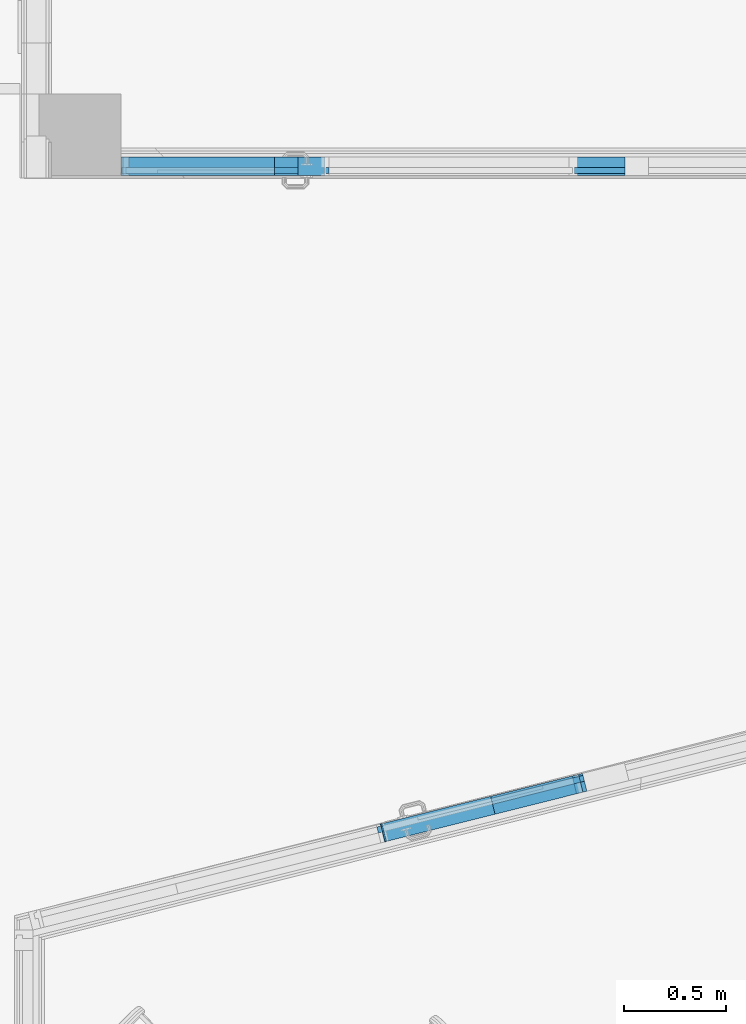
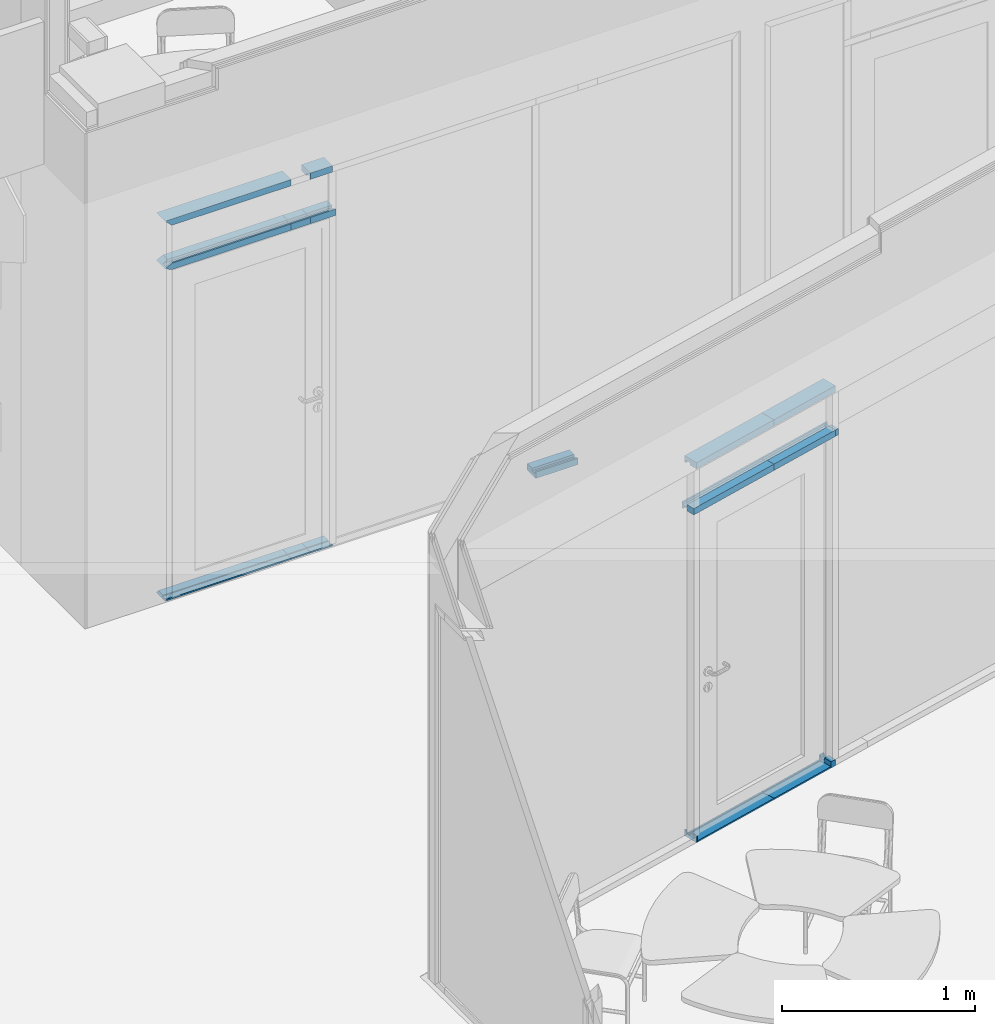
# One storey, part 35 of 153: 18 members, 2 elements without a shape of their own.
"""IFC2X3 building model written with IfcOpenShell, lengths in millimetres."""

from ifc_helpers import new_model, entity, si_unit, converted_unit, derived_unit, money_unit, direction, frame, origin_with_axes, place, context, subcontext, project, spatial, faceted_brep, material, type_object, element, aggregate, save


model = new_model("IFC2X3")

# Units and contexts
model_context = context("Model", 3, precision=0.01, world=origin_with_axes(), true_north=direction((0.0, 1.0)))
body_context = subcontext(model_context, "Body", "Model", "MODEL_VIEW")
ifc_project = project(units=[si_unit("LENGTHUNIT", "METRE", prefix="MILLI"), si_unit("AREAUNIT", "SQUARE_METRE"), si_unit("VOLUMEUNIT", "CUBIC_METRE"), converted_unit("PLANEANGLEUNIT", "DEGREE", entity("IfcPlaneAngleMeasure", 0.0174532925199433), si_unit("PLANEANGLEUNIT", "RADIAN"), dimensions=[0, 0, 0, 0, 0, 0, 0]), money_unit("EUR"), converted_unit("TIMEUNIT", "Year", entity("IfcTimeMeasure", 31557600.0), si_unit("TIMEUNIT", "SECOND"), dimensions=[0, 0, 1, 0, 0, 0, 0]), si_unit("MASSUNIT", "GRAM", prefix="KILO"), si_unit("THERMODYNAMICTEMPERATUREUNIT", "DEGREE_CELSIUS"), si_unit("LUMINOUSINTENSITYUNIT", "LUMEN"), si_unit("ENERGYUNIT", "JOULE", prefix="MEGA"), derived_unit("THERMALCONDUCTANCEUNIT", [(si_unit("POWERUNIT", "WATT"), 1), (si_unit("LENGTHUNIT", "METRE"), -1), (si_unit("THERMODYNAMICTEMPERATUREUNIT", "KELVIN"), -1)]), derived_unit("SPECIFICHEATCAPACITYUNIT", [(si_unit("ENERGYUNIT", "JOULE"), 1), (si_unit("MASSUNIT", "GRAM", prefix="KILO"), -1), (si_unit("THERMODYNAMICTEMPERATUREUNIT", "KELVIN"), -1)]), derived_unit("MASSDENSITYUNIT", [(si_unit("MASSUNIT", "GRAM", prefix="KILO"), 1), (si_unit("VOLUMEUNIT", "CUBIC_METRE"), -1)])], contexts=[model_context])

# Site, building, storey
site_placement = place(None, frame((0.0, 0.0, 8650.0), z_axis=(0.0, 0.0, 1.0), x_axis=(1.0, 0.0, 0.0)))
site = spatial("IfcSite", under=ifc_project, at=site_placement, Name="43301:001:0844", CompositionType="ELEMENT")
building_placement = place(site_placement, origin_with_axes())
building = spatial("IfcBuilding", under=site, at=building_placement, Name="Kuressaare Ametikooli tuulikute mehaanikute õppekorpus", CompositionType="ELEMENT")
storey_placement = place(building_placement, frame((0.0, 0.0, 4100.0), z_axis=(0.0, 0.0, 1.0), x_axis=(1.0, 0.0, 0.0)))
storey = spatial("IfcBuildingStorey", under=building, at=storey_placement, Name="2.korrus", CompositionType="ELEMENT", Elevation=4100.0)

# Curtain wall, members
curtain_wall_type = type_object("IfcCurtainWallType", Name="Curtain Wall Type", PredefinedType="NOTDEFINED")
curtain_wall_1_placement = place(storey_placement, frame((120547.3158940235, 20502.05468019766, 0.0), z_axis=(0.0, 0.0, 1.0), x_axis=(1.0, 0.0, 0.0)))
curtain_wall_1 = element("IfcCurtainWall", 1, at=curtain_wall_1_placement, inside=storey, type_object=curtain_wall_type, Name="PKF-2.2")
ifc_material = material(Name="Aluminium")
member_type_1 = type_object("IfcMemberType", Name="Boundary Frame 40 x 90", PredefinedType="NOTDEFINED")
member_1_placement = place(curtain_wall_1_placement, frame((36.68518250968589, 9.196740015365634, 2100.000036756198), z_axis=(-0.9699839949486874, -0.2431687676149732, -5.017218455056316e-09), x_axis=(-4.866621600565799e-09, -1.220030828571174e-09, 1.0)))
member_1 = element("IfcMember", 2, at=member_1_placement, type_object=member_type_1, material=ifc_material, context=body_context, shape_type="Brep", body=[
    faceted_brep([(-4.999997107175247, -15.00000000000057, 576.5794948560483), (-19.99999710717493, -15.00000000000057, 576.579494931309), (-19.99999710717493, -65.00000000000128, 576.579494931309), (20.00000289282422, -65.00000000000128, 576.5794947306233), (20.00000289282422, -15.00000000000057, 576.5794947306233), (5.00000289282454, -15.00000000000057, 576.5794948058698), (5.00000289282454, 15.00000000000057, 576.5794948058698), (20.00000289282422, 15.00000000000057, 576.5794947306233), (20.00000289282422, 25.00000000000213, 576.5794947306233), (-19.99999710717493, 25.00000000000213, 576.579494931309), (-19.99999710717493, 15.00000000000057, 576.579494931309), (-4.999997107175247, 15.00000000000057, 576.5794948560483), (-4.999999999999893, -15.00000000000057, -1.990514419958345e-07), (-19.99999999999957, -15.00000000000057, -1.237907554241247e-07), (-19.99999999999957, -65.00000000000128, -1.237907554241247e-07), (19.99999999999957, -65.00000000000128, -3.244764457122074e-07), (19.99999999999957, -15.00000000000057, -3.244764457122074e-07), (4.999999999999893, -15.00000000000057, -2.492299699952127e-07), (4.999999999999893, 14.99999999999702, -2.492299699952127e-07), (19.99999999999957, 14.99999999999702, -3.244764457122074e-07), (19.99999999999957, 24.99999999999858, -3.244764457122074e-07), (-19.99999999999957, 24.99999999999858, -1.237907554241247e-07), (-19.99999999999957, 14.99999999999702, -1.237907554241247e-07), (-4.999999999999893, 14.99999999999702, -1.990514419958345e-07)], [[[0, 1, 2, 3, 4, 5, 6, 7, 8, 9, 10, 11]], [[1, 0, 12, 13]], [[1, 13, 14, 2]], [[3, 2, 14, 15]], [[4, 3, 15, 16]], [[4, 16, 17, 5]], [[5, 17, 18, 6]], [[7, 6, 18, 19]], [[19, 20, 8, 7]], [[9, 8, 20, 21]], [[22, 10, 9, 21]], [[11, 10, 22, 23]], [[0, 11, 23, 12]], [[23, 22, 21, 20, 19, 18, 17, 16, 15, 14, 13, 12]]]),
])
member_2_placement = place(curtain_wall_1_placement, frame((36.68518250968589, 9.196740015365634, 2400.000049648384), z_axis=(-0.9699839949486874, -0.2431687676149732, 0.0), x_axis=(0.0, 0.0, 1.0)))
member_2 = element("IfcMember", 3, at=member_2_placement, type_object=member_type_1, material=ifc_material, context=body_context, shape_type="Brep", body=[
    faceted_brep([(-25.00000000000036, -14.99999999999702, 556.5794948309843), (-40.00000000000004, -14.99999999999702, 556.5794948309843), (-40.00000000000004, -64.99999999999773, 556.5794948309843), (0.0, -64.99999999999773, 556.5794948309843), (0.0, 0.0, 556.5794948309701), (0.0, 24.99999999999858, 556.5794948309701), (-40.00000000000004, 24.99999999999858, 556.5794948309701), (-40.00000000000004, 14.99999999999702, 556.5794948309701), (-25.00000000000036, 14.99999999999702, 556.5794948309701), (-25.00000000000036, -14.99999999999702, 0.0), (-40.00000000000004, -14.99999999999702, 0.0), (-40.00000000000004, -64.99999999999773, 0.0), (0.0, -64.99999999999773, 0.0), (0.0, 0.0, 0.0), (0.0, 24.99999999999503, 0.0), (-40.00000000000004, 24.99999999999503, 0.0), (-40.00000000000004, 14.99999999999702, 0.0), (-25.00000000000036, 14.99999999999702, 0.0)], [[[0, 1, 2, 3, 4, 5, 6, 7, 8]], [[0, 9, 10, 1]], [[10, 11, 2, 1]], [[11, 12, 3, 2]], [[12, 13, 4, 3]], [[13, 14, 5, 4]], [[14, 15, 6, 5]], [[7, 6, 15, 16]], [[16, 17, 8, 7]], [[8, 17, 9, 0]], [[9, 17, 16, 15, 14, 13, 12, 11, 10]]]),
])
member_3_placement = place(curtain_wall_1_placement, frame((485.9013726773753, 121.8123583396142, 2100.000033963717), z_axis=(-0.9699839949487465, -0.2431687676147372, 2.476187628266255e-09), x_axis=(2.401862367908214e-09, 6.021314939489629e-10, 1.0)))
member_3 = element("IfcMember", 4, at=member_3_placement, type_object=member_type_1, material=ifc_material, context=body_context, shape_type="Brep", body=[
    faceted_brep([(-5.000000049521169, -15.00000000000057, 19.99882055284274), (-20.00000004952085, -15.00000000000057, 19.99882051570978), (-20.00000004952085, -64.99999999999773, 19.99882051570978), (19.9999999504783, -64.99999999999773, 19.99882061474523), (19.9999999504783, -15.00000000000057, 19.99882061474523), (4.999999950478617, -15.00000000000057, 19.99882057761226), (4.999999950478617, 15.00000000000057, 19.99882057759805), (19.9999999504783, 15.00000000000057, 19.99882061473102), (19.9999999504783, 25.00000000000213, 19.99882061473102), (-20.00000004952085, 25.00000000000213, 19.99882051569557), (-20.00000004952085, 15.00000000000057, 19.99882051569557), (-5.000000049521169, 15.00000000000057, 19.99882055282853), (-4.999999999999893, -15.00000000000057, -1.239186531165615e-08), (-19.99999999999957, -15.00000000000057, -4.952482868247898e-08), (-19.99999999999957, -65.00000000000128, -4.952482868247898e-08), (19.99999999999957, -65.00000000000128, 4.951061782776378e-08), (19.99999999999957, -15.00000000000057, 4.951061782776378e-08), (4.999999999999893, -15.00000000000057, 1.237765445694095e-08), (4.999999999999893, 15.00000000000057, 1.237765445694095e-08), (19.99999999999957, 15.00000000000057, 4.951061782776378e-08), (19.99999999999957, 24.99999999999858, 4.951061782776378e-08), (-19.99999999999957, 24.99999999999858, -4.952482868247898e-08), (-19.99999999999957, 15.00000000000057, -4.952482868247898e-08), (-4.999999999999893, 15.00000000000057, -1.239186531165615e-08)], [[[0, 1, 2, 3, 4, 5, 6, 7, 8, 9, 10, 11]], [[1, 0, 12, 13]], [[1, 13, 14, 2]], [[3, 2, 14, 15]], [[4, 3, 15, 16]], [[4, 16, 17, 5]], [[5, 17, 18, 6]], [[7, 6, 18, 19]], [[19, 20, 8, 7]], [[9, 8, 20, 21]], [[22, 10, 9, 21]], [[11, 10, 22, 23]], [[0, 11, 23, 12]], [[23, 22, 21, 20, 19, 18, 17, 16, 15, 14, 13, 12]]]),
])
member_4_placement = place(curtain_wall_1_placement, frame((-495.4281471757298, -124.2006596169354, 0.0), z_axis=(-0.969983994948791, -0.2431687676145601, 0.0), x_axis=(0.0, 0.0, 1.0)))
member_4 = element("IfcMember", 5, at=member_4_placement, type_object=member_type_1, material=ifc_material, context=body_context, shape_type="Brep", body=[
    faceted_brep([(25.00000000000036, -15.00000000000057, 8.000000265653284), (25.00000000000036, 14.99999999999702, 8.000000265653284), (40.00000000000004, 14.99999999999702, 8.000000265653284), (40.00000000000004, 24.99999999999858, 8.000000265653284), (0.0, 24.99999999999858, 8.000000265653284), (0.0, 0.0, 8.000000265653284), (0.0, -65.00000000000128, 8.000000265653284), (40.00000000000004, -65.00000000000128, 8.000000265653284), (40.00000000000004, -15.00000000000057, 8.000000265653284), (25.00000000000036, -14.99999999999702, 0.0), (25.00000000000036, 15.00000000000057, 0.0), (40.00000000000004, 15.00000000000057, 0.0), (40.00000000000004, 24.99999999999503, 0.0), (0.0, 24.99999999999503, 0.0), (0.0, 0.0, 0.0), (0.0, -65.00000000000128, 0.0), (40.00000000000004, -65.00000000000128, 0.0), (40.00000000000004, -14.99999999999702, 0.0)], [[[0, 1, 2, 3, 4, 5, 6, 7, 8]], [[1, 0, 9, 10]], [[11, 2, 1, 10]], [[2, 11, 12, 3]], [[13, 4, 3, 12]], [[14, 5, 4, 13]], [[15, 6, 5, 14]], [[16, 7, 6, 15]], [[17, 8, 7, 16]], [[0, 8, 17, 9]], [[9, 17, 16, 15, 14, 13, 12, 11, 10]]]),
])
member_5_placement = place(curtain_wall_1_placement, frame((466.5028368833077, 116.9492698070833, 0.0), z_axis=(-0.969983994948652, -0.2431687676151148, 0.0), x_axis=(0.0, 0.0, 1.0)))
member_5 = element("IfcMember", 6, at=member_5_placement, type_object=member_type_1, material=ifc_material, context=body_context, shape_type="Brep", body=[
    faceted_brep([(25.00000000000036, -15.00000000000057, 32.00001407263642), (25.00000000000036, 14.99999999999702, 32.00001407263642), (40.00000000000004, 14.99999999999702, 32.00001407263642), (40.00000000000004, 24.99999999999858, 32.00001407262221), (0.0, 24.99999999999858, 32.00001407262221), (0.0, 0.0, 32.00001407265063), (0.0, -65.00000000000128, 32.00001407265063), (40.00000000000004, -65.00000000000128, 32.00001407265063), (40.00000000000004, -15.00000000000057, 32.00001407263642), (25.00000000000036, -15.00000000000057, 0.0), (25.00000000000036, 15.00000000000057, 0.0), (40.00000000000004, 15.00000000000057, 0.0), (40.00000000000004, 24.99999999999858, 0.0), (0.0, 24.99999999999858, 0.0), (0.0, 0.0, 0.0), (0.0, -64.99999999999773, 0.0), (40.00000000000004, -64.99999999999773, 0.0), (40.00000000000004, -15.00000000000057, 0.0)], [[[0, 1, 2, 3, 4, 5, 6, 7, 8]], [[1, 0, 9, 10]], [[11, 2, 1, 10]], [[2, 11, 12, 3]], [[13, 4, 3, 12]], [[14, 5, 4, 13]], [[15, 6, 5, 14]], [[16, 7, 6, 15]], [[17, 8, 7, 16]], [[0, 8, 17, 9]], [[9, 17, 16, 15, 14, 13, 12, 11, 10]]]),
])
member_6_placement = place(curtain_wall_1_placement, frame((466.5028368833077, 116.9492698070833, 2400.000049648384), z_axis=(-0.9699839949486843, -0.2431687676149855, 0.0), x_axis=(0.0, 0.0, 1.0)))
member_6 = element("IfcMember", 7, at=member_6_placement, type_object=member_type_1, material=ifc_material, context=body_context, shape_type="Brep", body=[
    faceted_brep([(-25.00000000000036, -15.00000000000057, 443.1182953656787), (-40.00000000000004, -15.00000000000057, 443.1182953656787), (-40.00000000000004, -64.99999999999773, 443.1182953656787), (0.0, -64.99999999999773, 443.1182953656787), (0.0, 0.0, 443.1182953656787), (0.0, 24.99999999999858, 443.1182953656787), (-40.00000000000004, 24.99999999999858, 443.1182953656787), (-40.00000000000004, 15.00000000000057, 443.1182953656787), (-25.00000000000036, 15.00000000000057, 443.1182953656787), (-25.00000000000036, -15.00000000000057, 0.0), (-40.00000000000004, -15.00000000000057, 0.0), (-40.00000000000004, -65.00000000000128, 0.0), (0.0, -65.00000000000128, 0.0), (0.0, 0.0, 0.0), (0.0, 24.99999999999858, 0.0), (-40.00000000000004, 24.99999999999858, 0.0), (-40.00000000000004, 14.99999999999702, 0.0), (-25.00000000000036, 14.99999999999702, 0.0)], [[[0, 1, 2, 3, 4, 5, 6, 7, 8]], [[0, 9, 10, 1]], [[10, 11, 2, 1]], [[11, 12, 3, 2]], [[12, 13, 4, 3]], [[13, 14, 5, 4]], [[14, 15, 6, 5]], [[7, 6, 15, 16]], [[16, 17, 8, 7]], [[8, 17, 9, 0]], [[9, 17, 16, 15, 14, 13, 12, 11, 10]]]),
])
member_7_placement = place(curtain_wall_1_placement, frame((466.5028368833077, 116.9492698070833, 2100.000034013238), z_axis=(-0.9699839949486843, -0.2431687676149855, 6.190130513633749e-09), x_axis=(6.004327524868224e-09, 1.505246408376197e-09, 1.0)))
member_7 = element("IfcMember", 8, at=member_7_placement, type_object=member_type_1, material=ifc_material, context=body_context, shape_type="Brep", body=[
    faceted_brep([(-5.000002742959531, -15.00000000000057, 443.1182955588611), (-20.00000274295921, -15.00000000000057, 443.1182954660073), (-20.00000274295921, -65.00000000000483, 443.1182954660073), (19.99999725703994, -65.00000000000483, 443.1182957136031), (19.99999725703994, -15.00000000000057, 443.1182957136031), (4.999997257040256, -15.00000000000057, 443.1182956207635), (4.999997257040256, 14.99999999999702, 443.1182956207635), (19.99999725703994, 14.99999999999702, 443.1182957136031), (19.99999725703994, 24.99999999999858, 443.1182957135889), (-20.00000274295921, 24.99999999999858, 443.1182954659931), (-20.00000274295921, 14.99999999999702, 443.1182954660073), (-5.000002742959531, 14.99999999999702, 443.1182955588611), (-4.999999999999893, -14.99999999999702, -1.052171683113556e-07), (-19.99999999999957, -14.99999999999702, -1.980708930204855e-07), (-19.99999999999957, -65.00000000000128, -1.980851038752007e-07), (19.99999999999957, -65.00000000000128, 4.951061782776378e-08), (19.99999999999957, -14.99999999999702, 4.952482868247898e-08), (4.999999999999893, -14.99999999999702, -4.331468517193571e-08), (4.999999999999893, 14.99999999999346, -4.331468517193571e-08), (19.99999999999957, 14.99999999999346, 4.952482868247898e-08), (19.99999999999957, 24.99999999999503, 4.951061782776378e-08), (-19.99999999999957, 24.99999999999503, -1.980851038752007e-07), (-19.99999999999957, 14.99999999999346, -1.980708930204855e-07), (-4.999999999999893, 14.99999999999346, -1.052171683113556e-07)], [[[0, 1, 2, 3, 4, 5, 6, 7, 8, 9, 10, 11]], [[1, 0, 12, 13]], [[1, 13, 14, 2]], [[3, 2, 14, 15]], [[4, 3, 15, 16]], [[4, 16, 17, 5]], [[5, 17, 18, 6]], [[7, 6, 18, 19]], [[19, 20, 8, 7]], [[9, 8, 20, 21]], [[22, 10, 9, 21]], [[11, 10, 22, 23]], [[0, 11, 23, 12]], [[23, 22, 21, 20, 19, 18, 17, 16, 15, 14, 13, 12]]]),
])

curtain_wall_2_placement = place(storey_placement, frame((119422.8886145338, 23599.06892395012, 7.49398259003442e-05), z_axis=(0.0, 0.0, 1.0), x_axis=(1.0, 0.0, 0.0)))
curtain_wall_2 = element("IfcCurtainWall", 9, at=curtain_wall_2_placement, inside=storey, type_object=curtain_wall_type, Name="PKF-1.1")
member_8_placement = place(curtain_wall_2_placement, frame((-654.9420386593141, 0.0, 2399.999972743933), z_axis=(1.0, 0.0, 0.0), x_axis=(0.0, 0.0, 1.0)))
member_8 = element("IfcMember", 10, at=member_8_placement, type_object=member_type_1, material=ifc_material, context=body_context, shape_type="Brep", body=[
    faceted_brep([(-25.00000000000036, -15.00000000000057, 752.6036310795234), (-40.00000000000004, -15.00000000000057, 752.6036310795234), (-40.00000000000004, -65.00000000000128, 752.6036310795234), (0.0, -65.00000000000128, 752.6036310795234), (0.0, 0.0, 752.6036310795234), (0.0, 24.99999999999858, 752.6036310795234), (-40.00000000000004, 24.99999999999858, 752.6036310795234), (-40.00000000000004, 15.00000000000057, 752.6036310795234), (-25.00000000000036, 15.00000000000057, 752.6036310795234), (-25.00000000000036, -15.00000000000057, 25.00000000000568), (-40.00000000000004, -15.00000000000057, 40.00000000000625), (-40.00000000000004, -65.00000000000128, 40.00000000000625), (0.0, -65.00000000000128, 0.0), (0.0, 0.0, 0.0), (0.0, 24.99999999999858, 0.0), (-40.00000000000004, 24.99999999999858, 40.00000000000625), (-40.00000000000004, 15.00000000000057, 40.00000000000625), (-25.00000000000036, 15.00000000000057, 25.00000000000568)], [[[0, 1, 2, 3, 4, 5, 6, 7, 8]], [[0, 9, 10, 1]], [[10, 11, 2, 1]], [[2, 11, 12, 3]], [[3, 12, 13, 4]], [[4, 13, 14, 5]], [[5, 14, 15, 6]], [[7, 6, 15, 16]], [[16, 17, 8, 7]], [[8, 17, 9, 0]], [[9, 17, 16, 15, 14, 13, 12, 11, 10]]]),
])
member_9_placement = place(curtain_wall_2_placement, frame((1559.618853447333, 0.0, -7.493982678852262e-05), z_axis=(1.0, 0.0, 0.0), x_axis=(0.0, 0.0, 1.0)))
member_9 = element("IfcMember", 11, at=member_9_placement, type_object=member_type_1, material=ifc_material, context=body_context, shape_type="Brep", body=[
    faceted_brep([(25.00000000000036, -15.00000000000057, 252.6036317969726), (25.00000000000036, 15.00000000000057, 252.6036317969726), (40.00000000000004, 15.00000000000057, 252.6036317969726), (40.00000000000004, 24.99999999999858, 252.6036317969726), (0.0, 24.99999999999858, 252.6036317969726), (0.0, 0.0, 252.6036317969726), (0.0, -65.00000000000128, 252.6036317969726), (40.00000000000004, -65.00000000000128, 252.6036317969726), (40.00000000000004, -15.00000000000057, 252.6036317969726), (25.00000000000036, -15.00000000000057, 0.0), (25.00000000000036, 15.00000000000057, 0.0), (40.00000000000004, 15.00000000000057, 0.0), (40.00000000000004, 24.99999999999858, 0.0), (0.0, 24.99999999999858, 0.0), (0.0, 0.0, 0.0), (0.0, -65.00000000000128, 0.0), (40.00000000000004, -65.00000000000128, 0.0), (40.00000000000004, -15.00000000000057, 0.0)], [[[0, 1, 2, 3, 4, 5, 6, 7, 8]], [[1, 0, 9, 10]], [[11, 2, 1, 10]], [[2, 11, 12, 3]], [[13, 4, 3, 12]], [[14, 5, 4, 13]], [[15, 6, 5, 14]], [[16, 7, 6, 15]], [[17, 8, 7, 16]], [[0, 8, 17, 9]], [[9, 17, 16, 15, 14, 13, 12, 11, 10]]]),
])
member_10_placement = place(curtain_wall_2_placement, frame((212.2224852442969, 0.0, 2399.999972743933), z_axis=(1.0, 0.0, 0.0), x_axis=(0.0, 0.0, 1.0)))
member_10 = element("IfcMember", 12, at=member_10_placement, type_object=member_type_1, material=ifc_material, context=body_context, shape_type="Brep", body=[
    faceted_brep([(-25.00000000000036, -15.00000000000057, 132.8354757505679), (-40.00000000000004, -15.00000000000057, 132.8354757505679), (-40.00000000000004, -65.00000000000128, 132.8354757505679), (0.0, -65.00000000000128, 132.8354757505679), (0.0, 0.0, 132.8354757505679), (0.0, 24.99999999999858, 132.8354757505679), (-40.00000000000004, 24.99999999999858, 132.8354757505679), (-40.00000000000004, 15.00000000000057, 132.8354757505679), (-25.00000000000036, 15.00000000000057, 132.8354757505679), (-25.00000000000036, -15.00000000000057, 0.0), (-40.00000000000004, -15.00000000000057, 0.0), (-40.00000000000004, -65.00000000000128, 0.0), (0.0, -65.00000000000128, 0.0), (0.0, 0.0, 0.0), (0.0, 24.99999999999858, 0.0), (-40.00000000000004, 24.99999999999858, 0.0), (-40.00000000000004, 15.00000000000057, 0.0), (-25.00000000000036, 15.00000000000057, 0.0)], [[[0, 1, 2, 3, 4, 5, 6, 7, 8]], [[0, 9, 10, 1]], [[10, 11, 2, 1]], [[11, 12, 3, 2]], [[12, 13, 4, 3]], [[13, 14, 5, 4]], [[14, 15, 6, 5]], [[7, 6, 15, 16]], [[16, 17, 8, 7]], [[8, 17, 9, 0]], [[9, 17, 16, 15, 14, 13, 12, 11, 10]]]),
])
member_11_placement = place(curtain_wall_2_placement, frame((97.66159242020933, 0.0, 2099.999921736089), z_axis=(1.0, 0.0, 0.0), x_axis=(0.0, 0.0, 1.0)))
member_11 = element("IfcMember", 13, at=member_11_placement, type_object=member_type_1, material=ifc_material, context=body_context, shape_type="Brep", body=[
    faceted_brep([(-4.999999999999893, -15.00000000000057, 114.5608928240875), (-19.99999999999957, -15.00000000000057, 114.5608928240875), (-19.99999999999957, -65.00000000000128, 114.5608928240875), (19.99999999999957, -65.00000000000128, 114.5608928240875), (19.99999999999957, -15.00000000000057, 114.5608928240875), (4.999999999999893, -15.00000000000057, 114.5608928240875), (4.999999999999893, 15.00000000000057, 114.5608928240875), (19.99999999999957, 15.00000000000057, 114.5608928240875), (19.99999999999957, 24.99999999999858, 114.5608928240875), (-19.99999999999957, 24.99999999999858, 114.5608928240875), (-19.99999999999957, 15.00000000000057, 114.5608928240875), (-4.999999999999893, 15.00000000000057, 114.5608928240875), (-4.999999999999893, -15.00000000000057, 0.0), (-19.99999999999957, -15.00000000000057, 0.0), (-19.99999999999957, -65.00000000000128, 0.0), (19.99999999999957, -65.00000000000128, 0.0), (19.99999999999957, -15.00000000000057, 0.0), (4.999999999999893, -15.00000000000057, 0.0), (4.999999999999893, 15.00000000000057, 0.0), (19.99999999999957, 15.00000000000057, 0.0), (19.99999999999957, 24.99999999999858, 0.0), (-19.99999999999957, 24.99999999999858, 0.0), (-19.99999999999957, 15.00000000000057, 0.0), (-4.999999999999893, 15.00000000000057, 0.0)], [[[0, 1, 2, 3, 4, 5, 6, 7, 8, 9, 10, 11]], [[1, 0, 12, 13]], [[1, 13, 14, 2]], [[3, 2, 14, 15]], [[4, 3, 15, 16]], [[4, 16, 17, 5]], [[5, 17, 18, 6]], [[7, 6, 18, 19]], [[19, 20, 8, 7]], [[9, 8, 20, 21]], [[22, 10, 9, 21]], [[11, 10, 22, 23]], [[0, 11, 23, 12]], [[23, 22, 21, 20, 19, 18, 17, 16, 15, 14, 13, 12]]]),
])
member_12_placement = place(curtain_wall_2_placement, frame((-654.9420386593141, 0.0, 2099.999921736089), z_axis=(1.0, 0.0, 0.0), x_axis=(0.0, 0.0, 1.0)))
member_12 = element("IfcMember", 14, at=member_12_placement, type_object=member_type_1, material=ifc_material, context=body_context, shape_type="Brep", body=[
    faceted_brep([(-4.999999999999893, -15.00000000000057, 752.6036310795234), (-19.99999999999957, -15.00000000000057, 752.6036310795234), (-19.99999999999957, -65.00000000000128, 752.6036310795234), (19.99999999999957, -65.00000000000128, 752.6036310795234), (19.99999999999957, -15.00000000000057, 752.6036310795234), (4.999999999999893, -15.00000000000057, 752.6036310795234), (4.999999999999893, 15.00000000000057, 752.6036310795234), (19.99999999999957, 15.00000000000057, 752.6036310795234), (19.99999999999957, 24.99999999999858, 752.6036310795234), (-19.99999999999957, 24.99999999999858, 752.6036310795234), (-19.99999999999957, 15.00000000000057, 752.6036310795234), (-4.999999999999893, 15.00000000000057, 752.6036310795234), (-4.999999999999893, -15.00000000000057, 10.00000000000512), (-20.00000000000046, -15.00000000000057, 40.00000000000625), (-20.00000000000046, -65.00000000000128, 40.00000000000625), (0.0, -65.00000000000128, 0.0), (19.99999999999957, -65.00000000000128, 40.00000000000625), (19.99999999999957, -15.00000000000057, 40.00000000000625), (4.999999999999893, -15.00000000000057, 10.00000000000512), (4.999999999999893, 15.00000000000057, 10.00000000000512), (20.00000000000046, 15.00000000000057, 40.00000000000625), (20.00000000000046, 24.99999999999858, 40.00000000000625), (0.0, 24.99999999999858, 0.0), (-19.99999999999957, 24.99999999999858, 40.00000000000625), (-19.99999999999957, 15.00000000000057, 40.00000000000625), (-4.999999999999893, 15.00000000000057, 10.00000000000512)], [[[0, 1, 2, 3, 4, 5, 6, 7, 8, 9, 10, 11]], [[1, 0, 12, 13]], [[1, 13, 14, 2]], [[14, 15, 16, 3, 2]], [[4, 3, 16, 17]], [[4, 17, 18, 5]], [[5, 18, 19, 6]], [[7, 6, 19, 20]], [[20, 21, 8, 7]], [[21, 22, 23, 9, 8]], [[24, 10, 9, 23]], [[11, 10, 24, 25]], [[0, 11, 25, 12]], [[25, 24, 23, 22, 15, 14, 13, 12]], [[21, 20, 19, 18, 17, 16, 15, 22]]]),
])
member_13_placement = place(curtain_wall_2_placement, frame((212.2224852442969, 0.0, 2099.999921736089), z_axis=(1.0, 0.0, 0.0), x_axis=(0.0, 0.0, 1.0)))
member_13 = element("IfcMember", 15, at=member_13_placement, type_object=member_type_1, material=ifc_material, context=body_context, shape_type="Brep", body=[
    faceted_brep([(-4.999999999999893, -15.00000000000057, 152.8354757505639), (-19.99999999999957, -15.00000000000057, 152.8354757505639), (-19.99999999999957, -65.00000000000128, 152.8354757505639), (19.99999999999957, -65.00000000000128, 152.8354757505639), (19.99999999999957, -15.00000000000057, 152.8354757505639), (4.999999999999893, -15.00000000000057, 152.8354757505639), (4.999999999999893, 15.00000000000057, 152.8354757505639), (19.99999999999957, 15.00000000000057, 152.8354757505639), (19.99999999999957, 24.99999999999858, 152.8354757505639), (-19.99999999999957, 24.99999999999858, 152.8354757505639), (-19.99999999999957, 15.00000000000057, 152.8354757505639), (-4.999999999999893, 15.00000000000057, 152.8354757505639), (-4.999999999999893, -15.00000000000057, 0.0), (-19.99999999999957, -15.00000000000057, 0.0), (-19.99999999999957, -65.00000000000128, 0.0), (19.99999999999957, -65.00000000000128, 0.0), (19.99999999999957, -15.00000000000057, 0.0), (4.999999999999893, -15.00000000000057, 0.0), (4.999999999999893, 15.00000000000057, 0.0), (19.99999999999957, 15.00000000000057, 0.0), (19.99999999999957, 24.99999999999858, 0.0), (-19.99999999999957, 24.99999999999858, 0.0), (-19.99999999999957, 15.00000000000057, 0.0), (-4.999999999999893, 15.00000000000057, 0.0)], [[[0, 1, 2, 3, 4, 5, 6, 7, 8, 9, 10, 11]], [[1, 0, 12, 13]], [[1, 13, 14, 2]], [[3, 2, 14, 15]], [[4, 3, 15, 16]], [[4, 16, 17, 5]], [[5, 17, 18, 6]], [[7, 6, 18, 19]], [[19, 20, 8, 7]], [[9, 8, 20, 21]], [[22, 10, 9, 21]], [[11, 10, 22, 23]], [[0, 11, 23, 12]], [[23, 22, 21, 20, 19, 18, 17, 16, 15, 14, 13, 12]]]),
])

# Member
member_type_2 = type_object("IfcMemberType", Name="10 x 90", PredefinedType="NOTDEFINED")
member_14_placement = place(curtain_wall_1_placement, frame((36.68518250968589, 9.196740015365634, 0.0), z_axis=(-0.9699839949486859, -0.2431687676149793, 0.0), x_axis=(0.0, 0.0, 1.0)))
member_14 = element("IfcMember", 16, at=member_14_placement, type_object=member_type_2, material=ifc_material, context=body_context, shape_type="Brep", body=[
    faceted_brep([(4.999999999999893, -15.00000000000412, 548.5794945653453), (4.999999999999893, 15.00000000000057, 548.5794945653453), (9.999999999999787, 15.00000000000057, 548.5794945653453), (9.999999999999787, 25.00000000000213, 548.5794945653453), (0.0, 25.00000000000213, 548.5794945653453), (0.0, 0.0, 548.5794945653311), (0.0, -65.00000000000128, 548.5794945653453), (9.999999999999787, -65.00000000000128, 548.5794945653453), (9.999999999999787, -15.00000000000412, 548.5794945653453), (4.999999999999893, -14.99999999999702, 0.0), (4.999999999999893, 14.99999999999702, 0.0), (9.999999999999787, 14.99999999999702, 0.0), (9.999999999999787, 24.99999999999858, 0.0), (0.0, 24.99999999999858, 0.0), (0.0, 0.0, 0.0), (0.0, -65.00000000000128, 0.0), (9.999999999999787, -65.00000000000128, 0.0), (9.999999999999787, -14.99999999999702, 0.0)], [[[0, 1, 2, 3, 4, 5, 6, 7, 8]], [[1, 0, 9, 10]], [[11, 2, 1, 10]], [[2, 11, 12, 3]], [[13, 4, 3, 12]], [[14, 5, 4, 13]], [[15, 6, 5, 14]], [[16, 7, 6, 15]], [[17, 8, 7, 16]], [[0, 8, 17, 9]], [[9, 17, 16, 15, 14, 13, 12, 11, 10]]]),
])

member_15_placement = place(curtain_wall_1_placement, frame((435.4633353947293, 109.1678658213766, 0.0), z_axis=(-0.9699839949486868, -0.2431687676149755, 0.0), x_axis=(0.0, 0.0, 1.0)))
member_15 = element("IfcMember", 17, at=member_15_placement, type_object=member_type_2, material=ifc_material, context=body_context, shape_type="Brep", body=[
    faceted_brep([(4.999999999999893, -14.99999999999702, 411.1182812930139), (4.999999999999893, 15.00000000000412, 411.1182812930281), (9.999999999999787, 15.00000000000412, 411.1182812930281), (9.999999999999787, 25.00000000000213, 411.1182812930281), (0.0, 25.00000000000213, 411.1182812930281), (0.0, 0.0, 411.1182812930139), (0.0, -64.99999999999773, 411.1182812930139), (9.999999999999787, -64.99999999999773, 411.1182812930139), (9.999999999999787, -14.99999999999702, 411.1182812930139), (4.999999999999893, -15.00000000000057, 0.0), (4.999999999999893, 15.00000000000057, 0.0), (9.999999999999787, 15.00000000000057, 0.0), (9.999999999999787, 25.00000000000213, 0.0), (0.0, 25.00000000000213, 0.0), (0.0, 0.0, 0.0), (0.0, -64.99999999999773, 0.0), (9.999999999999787, -64.99999999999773, 0.0), (9.999999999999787, -15.00000000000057, 0.0)], [[[0, 1, 2, 3, 4, 5, 6, 7, 8]], [[1, 0, 9, 10]], [[11, 2, 1, 10]], [[2, 11, 12, 3]], [[13, 4, 3, 12]], [[14, 5, 4, 13]], [[15, 6, 5, 14]], [[16, 7, 6, 15]], [[17, 8, 7, 16]], [[0, 8, 17, 9]], [[9, 17, 16, 15, 14, 13, 12, 11, 10]]]),
])

aggregate(curtain_wall_1, [member_1, member_14, member_2, member_3, member_4, member_15, member_5, member_6, member_7])

member_16_placement = place(curtain_wall_2_placement, frame((-654.9420386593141, 0.0, -7.493982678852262e-05), z_axis=(1.0, 0.0, 0.0), x_axis=(0.0, 0.0, 1.0)))
member_16 = element("IfcMember", 18, at=member_16_placement, type_object=member_type_2, material=ifc_material, context=body_context, shape_type="Brep", body=[
    faceted_brep([(4.999999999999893, -15.00000000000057, 752.6036310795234), (4.999999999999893, 15.00000000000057, 752.6036310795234), (9.999999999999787, 15.00000000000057, 752.6036310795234), (9.999999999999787, 24.99999999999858, 752.6036310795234), (0.0, 24.99999999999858, 752.6036310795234), (0.0, 0.0, 752.6036310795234), (0.0, -65.00000000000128, 752.6036310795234), (9.999999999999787, -65.00000000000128, 752.6036310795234), (9.999999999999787, -15.00000000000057, 752.6036310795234), (4.999999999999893, -15.00000000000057, 4.999999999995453), (4.999999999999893, 15.00000000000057, 4.999999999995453), (9.999999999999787, 15.00000000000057, 10.00000000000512), (9.999999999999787, 24.99999999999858, 10.00000000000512), (0.0, 24.99999999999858, 0.0), (0.0, 0.0, 0.0), (0.0, -65.00000000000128, 0.0), (9.999999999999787, -65.00000000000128, 10.00000000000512), (9.999999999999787, -15.00000000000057, 10.00000000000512)], [[[0, 1, 2, 3, 4, 5, 6, 7, 8]], [[1, 0, 9, 10]], [[11, 2, 1, 10]], [[2, 11, 12, 3]], [[4, 3, 12, 13]], [[5, 4, 13, 14]], [[6, 5, 14, 15]], [[7, 6, 15, 16]], [[17, 8, 7, 16]], [[0, 8, 17, 9]], [[9, 17, 16, 15, 14, 13, 12, 11, 10]]]),
])

member_17_placement = place(curtain_wall_2_placement, frame((97.66159242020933, 0.0, -7.493982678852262e-05), z_axis=(1.0, 0.0, 0.0), x_axis=(0.0, 0.0, 1.0)))
member_17 = element("IfcMember", 19, at=member_17_placement, type_object=member_type_2, material=ifc_material, context=body_context, shape_type="Brep", body=[
    faceted_brep([(4.999999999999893, -15.00000000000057, 114.5608928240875), (4.999999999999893, 15.00000000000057, 114.5608928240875), (9.999999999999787, 15.00000000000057, 114.5608928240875), (9.999999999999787, 24.99999999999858, 114.5608928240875), (0.0, 24.99999999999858, 114.5608928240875), (0.0, 0.0, 114.5608928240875), (0.0, -65.00000000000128, 114.5608928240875), (9.999999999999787, -65.00000000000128, 114.5608928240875), (9.999999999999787, -15.00000000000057, 114.5608928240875), (4.999999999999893, -15.00000000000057, 0.0), (4.999999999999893, 15.00000000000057, 0.0), (9.999999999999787, 15.00000000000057, 0.0), (9.999999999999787, 24.99999999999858, 0.0), (0.0, 24.99999999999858, 0.0), (0.0, 0.0, 0.0), (0.0, -65.00000000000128, 0.0), (9.999999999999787, -65.00000000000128, 0.0), (9.999999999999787, -15.00000000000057, 0.0)], [[[0, 1, 2, 3, 4, 5, 6, 7, 8]], [[1, 0, 9, 10]], [[11, 2, 1, 10]], [[2, 11, 12, 3]], [[13, 4, 3, 12]], [[14, 5, 4, 13]], [[15, 6, 5, 14]], [[16, 7, 6, 15]], [[17, 8, 7, 16]], [[0, 8, 17, 9]], [[9, 17, 16, 15, 14, 13, 12, 11, 10]]]),
])

member_18_placement = place(curtain_wall_2_placement, frame((212.2224852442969, 0.0, -7.493982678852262e-05), z_axis=(1.0, 0.0, 0.0), x_axis=(0.0, 0.0, 1.0)))
member_18 = element("IfcMember", 20, at=member_18_placement, type_object=member_type_2, material=ifc_material, context=body_context, shape_type="Brep", body=[
    faceted_brep([(4.999999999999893, -15.00000000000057, 132.8354757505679), (4.999999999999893, 15.00000000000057, 132.8354757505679), (9.999999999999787, 15.00000000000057, 132.8354757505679), (9.999999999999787, 24.99999999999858, 132.8354757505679), (0.0, 24.99999999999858, 132.8354757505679), (0.0, 0.0, 132.8354757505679), (0.0, -65.00000000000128, 132.8354757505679), (9.999999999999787, -65.00000000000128, 132.8354757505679), (9.999999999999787, -15.00000000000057, 132.8354757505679), (4.999999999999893, -15.00000000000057, 0.0), (4.999999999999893, 15.00000000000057, 0.0), (9.999999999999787, 15.00000000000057, 0.0), (9.999999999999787, 24.99999999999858, 0.0), (0.0, 24.99999999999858, 0.0), (0.0, 0.0, 0.0), (0.0, -65.00000000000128, 0.0), (9.999999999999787, -65.00000000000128, 0.0), (9.999999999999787, -15.00000000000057, 0.0)], [[[0, 1, 2, 3, 4, 5, 6, 7, 8]], [[1, 0, 9, 10]], [[11, 2, 1, 10]], [[2, 11, 12, 3]], [[13, 4, 3, 12]], [[14, 5, 4, 13]], [[15, 6, 5, 14]], [[16, 7, 6, 15]], [[17, 8, 7, 16]], [[0, 8, 17, 9]], [[9, 17, 16, 15, 14, 13, 12, 11, 10]]]),
])

aggregate(curtain_wall_2, [member_8, member_16, member_17, member_9, member_18, member_10, member_11, member_12, member_13])

save(model, "model.ifc")
